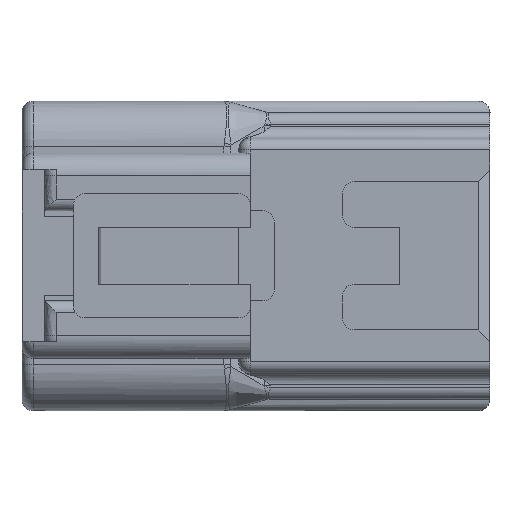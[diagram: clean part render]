
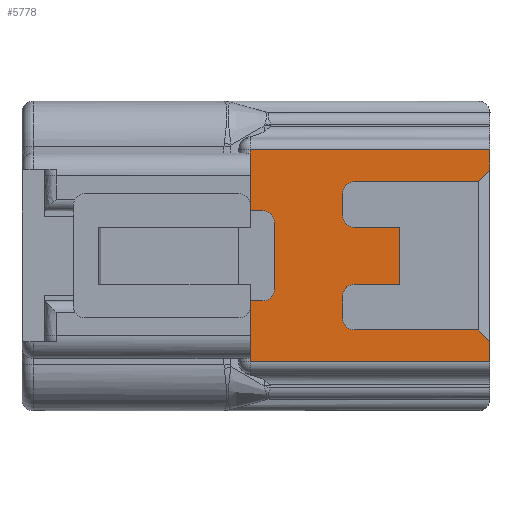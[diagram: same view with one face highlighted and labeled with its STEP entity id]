
A CAD part, top view. The second image highlights one B-rep face of the part: STEP entity #5778.
In plain terms, the highlighted planar face has unit normal (0, 0, 1).
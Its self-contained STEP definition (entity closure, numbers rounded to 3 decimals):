
#4289=CARTESIAN_POINT('Vertex',(22.,15.5,7.75)) ;
#4292=CARTESIAN_POINT('Line Origine',(21.5,15.,7.75)) ;
#4296=CARTESIAN_POINT('Vertex',(21.,14.5,7.75)) ;
#4320=CARTESIAN_POINT('Vertex',(21.,1.5,7.75)) ;
#4323=CARTESIAN_POINT('Line Origine',(21.5,1.,7.75)) ;
#4327=CARTESIAN_POINT('Vertex',(22.,0.5,7.75)) ;
#4427=CARTESIAN_POINT('Vertex',(14.1,10.5,7.75)) ;
#4430=CARTESIAN_POINT('Line Origine',(14.1,8.,7.75)) ;
#4434=CARTESIAN_POINT('Vertex',(14.1,5.5,7.75)) ;
#5035=CARTESIAN_POINT('Vertex',(2.1,11.95,7.75)) ;
#5049=CARTESIAN_POINT('Vertex',(3.1,10.95,7.75)) ;
#5052=CARTESIAN_POINT('Axis2P3D Location',(2.1,10.95,7.75)) ;
#5069=CARTESIAN_POINT('Line Origine',(3.1,8.,7.75)) ;
#5073=CARTESIAN_POINT('Vertex',(3.1,5.05,7.75)) ;
#5111=CARTESIAN_POINT('Vertex',(2.1,4.05,7.75)) ;
#5114=CARTESIAN_POINT('Axis2P3D Location',(2.1,5.05,7.75)) ;
#5131=CARTESIAN_POINT('Line Origine',(15.55,1.5,7.75)) ;
#5135=CARTESIAN_POINT('Vertex',(10.1,1.5,7.75)) ;
#5173=CARTESIAN_POINT('Vertex',(9.1,2.5,7.75)) ;
#5176=CARTESIAN_POINT('Axis2P3D Location',(10.1,2.5,7.75)) ;
#5197=CARTESIAN_POINT('Vertex',(10.1,5.5,7.75)) ;
#5214=CARTESIAN_POINT('Line Origine',(12.1,5.5,7.75)) ;
#5232=CARTESIAN_POINT('Line Origine',(9.1,3.5,7.75)) ;
#5236=CARTESIAN_POINT('Vertex',(9.1,4.5,7.75)) ;
#5263=CARTESIAN_POINT('Axis2P3D Location',(10.1,4.5,7.75)) ;
#5289=CARTESIAN_POINT('Vertex',(10.1,10.5,7.75)) ;
#5294=CARTESIAN_POINT('Line Origine',(12.1,10.5,7.75)) ;
#5328=CARTESIAN_POINT('Vertex',(9.1,11.5,7.75)) ;
#5333=CARTESIAN_POINT('Axis2P3D Location',(10.1,11.5,7.75)) ;
#5442=CARTESIAN_POINT('Line Origine',(15.55,14.5,7.75)) ;
#5446=CARTESIAN_POINT('Vertex',(10.1,14.5,7.75)) ;
#5461=CARTESIAN_POINT('Line Origine',(9.1,12.5,7.75)) ;
#5465=CARTESIAN_POINT('Vertex',(9.1,13.5,7.75)) ;
#5485=CARTESIAN_POINT('Axis2P3D Location',(10.1,13.5,7.75)) ;
#5572=CARTESIAN_POINT('Vertex',(1.,17.3,7.75)) ;
#5598=CARTESIAN_POINT('Line Origine',(10.999,17.3,7.75)) ;
#5602=CARTESIAN_POINT('Vertex',(22.,17.3,7.75)) ;
#5672=CARTESIAN_POINT('Axis2P3D Location',(22.,-2.3,7.75)) ;
#5677=CARTESIAN_POINT('Line Origine',(11.5,-1.3,7.75)) ;
#5681=CARTESIAN_POINT('Vertex',(1.,-1.3,7.75)) ;
#5683=CARTESIAN_POINT('Vertex',(22.,-1.3,7.75)) ;
#5686=CARTESIAN_POINT('Line Origine',(22.,-0.4,7.75)) ;
#5691=CARTESIAN_POINT('Line Origine',(22.,16.4,7.75)) ;
#5696=CARTESIAN_POINT('Line Origine',(1.,17.15,7.75)) ;
#5700=CARTESIAN_POINT('Vertex',(1.,17.,7.75)) ;
#5703=CARTESIAN_POINT('Line Origine',(1.,16.98,7.75)) ;
#5707=CARTESIAN_POINT('Vertex',(1.,16.96,7.75)) ;
#5710=CARTESIAN_POINT('Line Origine',(1.,14.455,7.75)) ;
#5714=CARTESIAN_POINT('Vertex',(1.,11.95,7.75)) ;
#5717=CARTESIAN_POINT('Line Origine',(1.55,11.95,7.75)) ;
#5722=CARTESIAN_POINT('Line Origine',(1.55,4.05,7.75)) ;
#5726=CARTESIAN_POINT('Vertex',(1.,4.05,7.75)) ;
#5729=CARTESIAN_POINT('Line Origine',(1.,1.545,7.75)) ;
#5733=CARTESIAN_POINT('Vertex',(1.,-0.96,7.75)) ;
#5736=CARTESIAN_POINT('Line Origine',(1.,-0.98,7.75)) ;
#5740=CARTESIAN_POINT('Vertex',(1.,-1.,7.75)) ;
#5743=CARTESIAN_POINT('Line Origine',(1.,-1.15,7.75)) ;
#4293=DIRECTION('Vector Direction',(-0.707,-0.707,0.)) ;
#4324=DIRECTION('Vector Direction',(0.707,-0.707,0.)) ;
#4431=DIRECTION('Vector Direction',(0.,1.,0.)) ;
#5053=DIRECTION('Axis2P3D Direction',(0.,0.,-1.)) ;
#5070=DIRECTION('Vector Direction',(0.,1.,0.)) ;
#5115=DIRECTION('Axis2P3D Direction',(0.,0.,-1.)) ;
#5132=DIRECTION('Vector Direction',(1.,0.,0.)) ;
#5177=DIRECTION('Axis2P3D Direction',(0.,0.,-1.)) ;
#5215=DIRECTION('Vector Direction',(1.,0.,0.)) ;
#5233=DIRECTION('Vector Direction',(0.,-1.,0.)) ;
#5264=DIRECTION('Axis2P3D Direction',(0.,-0.,1.)) ;
#5295=DIRECTION('Vector Direction',(1.,0.,0.)) ;
#5334=DIRECTION('Axis2P3D Direction',(0.,0.,1.)) ;
#5443=DIRECTION('Vector Direction',(-1.,0.,0.)) ;
#5462=DIRECTION('Vector Direction',(0.,-1.,0.)) ;
#5486=DIRECTION('Axis2P3D Direction',(0.,0.,-1.)) ;
#5599=DIRECTION('Vector Direction',(1.,0.,0.)) ;
#5673=DIRECTION('Axis2P3D Direction',(0.,0.,-1.)) ;
#5674=DIRECTION('Axis2P3D XDirection',(0.,1.,0.)) ;
#5678=DIRECTION('Vector Direction',(1.,0.,0.)) ;
#5687=DIRECTION('Vector Direction',(0.,1.,0.)) ;
#5692=DIRECTION('Vector Direction',(0.,1.,0.)) ;
#5697=DIRECTION('Vector Direction',(0.,1.,0.)) ;
#5704=DIRECTION('Vector Direction',(0.,-1.,0.)) ;
#5711=DIRECTION('Vector Direction',(0.,-1.,0.)) ;
#5718=DIRECTION('Vector Direction',(1.,0.,0.)) ;
#5723=DIRECTION('Vector Direction',(-1.,0.,0.)) ;
#5730=DIRECTION('Vector Direction',(0.,-1.,0.)) ;
#5737=DIRECTION('Vector Direction',(0.,-1.,0.)) ;
#5744=DIRECTION('Vector Direction',(0.,1.,0.)) ;
#5054=AXIS2_PLACEMENT_3D('Circle Axis2P3D',#5052,#5053,$) ;
#5116=AXIS2_PLACEMENT_3D('Circle Axis2P3D',#5114,#5115,$) ;
#5178=AXIS2_PLACEMENT_3D('Circle Axis2P3D',#5176,#5177,$) ;
#5265=AXIS2_PLACEMENT_3D('Circle Axis2P3D',#5263,#5264,$) ;
#5335=AXIS2_PLACEMENT_3D('Circle Axis2P3D',#5333,#5334,$) ;
#5487=AXIS2_PLACEMENT_3D('Circle Axis2P3D',#5485,#5486,$) ;
#5675=AXIS2_PLACEMENT_3D('Plane Axis2P3D',#5672,#5673,#5674) ;
#5749=ORIENTED_EDGE('',*,*,#5685,.T.) ;
#5750=ORIENTED_EDGE('',*,*,#5690,.T.) ;
#5751=ORIENTED_EDGE('',*,*,#4329,.F.) ;
#5752=ORIENTED_EDGE('',*,*,#5137,.F.) ;
#5753=ORIENTED_EDGE('',*,*,#5180,.T.) ;
#5754=ORIENTED_EDGE('',*,*,#5238,.F.) ;
#5755=ORIENTED_EDGE('',*,*,#5267,.T.) ;
#5756=ORIENTED_EDGE('',*,*,#5218,.T.) ;
#5757=ORIENTED_EDGE('',*,*,#4436,.T.) ;
#5758=ORIENTED_EDGE('',*,*,#5298,.F.) ;
#5759=ORIENTED_EDGE('',*,*,#5337,.T.) ;
#5760=ORIENTED_EDGE('',*,*,#5467,.F.) ;
#5761=ORIENTED_EDGE('',*,*,#5489,.T.) ;
#5762=ORIENTED_EDGE('',*,*,#5448,.F.) ;
#5763=ORIENTED_EDGE('',*,*,#4298,.F.) ;
#5764=ORIENTED_EDGE('',*,*,#5695,.T.) ;
#5765=ORIENTED_EDGE('',*,*,#5604,.F.) ;
#5766=ORIENTED_EDGE('',*,*,#5702,.F.) ;
#5767=ORIENTED_EDGE('',*,*,#5709,.F.) ;
#5768=ORIENTED_EDGE('',*,*,#5716,.T.) ;
#5769=ORIENTED_EDGE('',*,*,#5721,.F.) ;
#5770=ORIENTED_EDGE('',*,*,#5056,.T.) ;
#5771=ORIENTED_EDGE('',*,*,#5075,.F.) ;
#5772=ORIENTED_EDGE('',*,*,#5118,.T.) ;
#5773=ORIENTED_EDGE('',*,*,#5728,.F.) ;
#5774=ORIENTED_EDGE('',*,*,#5735,.T.) ;
#5775=ORIENTED_EDGE('',*,*,#5742,.F.) ;
#5776=ORIENTED_EDGE('',*,*,#5747,.F.) ;
#4294=VECTOR('Line Direction',#4293,1.) ;
#4325=VECTOR('Line Direction',#4324,1.) ;
#4432=VECTOR('Line Direction',#4431,1.) ;
#5071=VECTOR('Line Direction',#5070,1.) ;
#5133=VECTOR('Line Direction',#5132,1.) ;
#5216=VECTOR('Line Direction',#5215,1.) ;
#5234=VECTOR('Line Direction',#5233,1.) ;
#5296=VECTOR('Line Direction',#5295,1.) ;
#5444=VECTOR('Line Direction',#5443,1.) ;
#5463=VECTOR('Line Direction',#5462,1.) ;
#5600=VECTOR('Line Direction',#5599,1.) ;
#5679=VECTOR('Line Direction',#5678,1.) ;
#5688=VECTOR('Line Direction',#5687,1.) ;
#5693=VECTOR('Line Direction',#5692,1.) ;
#5698=VECTOR('Line Direction',#5697,1.) ;
#5705=VECTOR('Line Direction',#5704,1.) ;
#5712=VECTOR('Line Direction',#5711,1.) ;
#5719=VECTOR('Line Direction',#5718,1.) ;
#5724=VECTOR('Line Direction',#5723,1.) ;
#5731=VECTOR('Line Direction',#5730,1.) ;
#5738=VECTOR('Line Direction',#5737,1.) ;
#5745=VECTOR('Line Direction',#5744,1.) ;
#5778=ADVANCED_FACE('\X2\FF8AFF9FFF70FF82\X0\ \X2\FF8EFF9EFF83FF9EFF68FF70\X0\',(#5777),#5676,.F.) ;
#5055=CIRCLE('generated circle',#5054,1.) ;
#5117=CIRCLE('generated circle',#5116,1.) ;
#5179=CIRCLE('generated circle',#5178,1.) ;
#5266=CIRCLE('generated circle',#5265,1.) ;
#5336=CIRCLE('generated circle',#5335,1.) ;
#5488=CIRCLE('generated circle',#5487,1.) ;
#4298=EDGE_CURVE('',#4290,#4297,#4295,.T.) ;
#4329=EDGE_CURVE('',#4321,#4328,#4326,.T.) ;
#4436=EDGE_CURVE('',#4435,#4428,#4433,.T.) ;
#5056=EDGE_CURVE('',#5036,#5050,#5055,.T.) ;
#5075=EDGE_CURVE('',#5074,#5050,#5072,.T.) ;
#5118=EDGE_CURVE('',#5074,#5112,#5117,.T.) ;
#5137=EDGE_CURVE('',#5136,#4321,#5134,.T.) ;
#5180=EDGE_CURVE('',#5136,#5174,#5179,.T.) ;
#5218=EDGE_CURVE('',#5198,#4435,#5217,.T.) ;
#5238=EDGE_CURVE('',#5237,#5174,#5235,.T.) ;
#5267=EDGE_CURVE('',#5237,#5198,#5266,.F.) ;
#5298=EDGE_CURVE('',#5290,#4428,#5297,.T.) ;
#5337=EDGE_CURVE('',#5290,#5329,#5336,.F.) ;
#5448=EDGE_CURVE('',#4297,#5447,#5445,.T.) ;
#5467=EDGE_CURVE('',#5466,#5329,#5464,.T.) ;
#5489=EDGE_CURVE('',#5466,#5447,#5488,.T.) ;
#5604=EDGE_CURVE('',#5573,#5603,#5601,.T.) ;
#5685=EDGE_CURVE('',#5682,#5684,#5680,.T.) ;
#5690=EDGE_CURVE('',#5684,#4328,#5689,.T.) ;
#5695=EDGE_CURVE('',#4290,#5603,#5694,.T.) ;
#5702=EDGE_CURVE('',#5701,#5573,#5699,.T.) ;
#5709=EDGE_CURVE('',#5708,#5701,#5706,.F.) ;
#5716=EDGE_CURVE('',#5708,#5715,#5713,.T.) ;
#5721=EDGE_CURVE('',#5036,#5715,#5720,.F.) ;
#5728=EDGE_CURVE('',#5727,#5112,#5725,.F.) ;
#5735=EDGE_CURVE('',#5727,#5734,#5732,.T.) ;
#5742=EDGE_CURVE('',#5741,#5734,#5739,.F.) ;
#5747=EDGE_CURVE('',#5682,#5741,#5746,.T.) ;
#5748=EDGE_LOOP('',(#5749,#5750,#5751,#5752,#5753,#5754,#5755,#5756,#5757,#5758,#5759,#5760,#5761,#5762,#5763,#5764,#5765,#5766,#5767,#5768,#5769,#5770,#5771,#5772,#5773,#5774,#5775,#5776)) ;
#5777=FACE_OUTER_BOUND('',#5748,.T.) ;
#4295=LINE('Line',#4292,#4294) ;
#4326=LINE('Line',#4323,#4325) ;
#4433=LINE('Line',#4430,#4432) ;
#5072=LINE('Line',#5069,#5071) ;
#5134=LINE('Line',#5131,#5133) ;
#5217=LINE('Line',#5214,#5216) ;
#5235=LINE('Line',#5232,#5234) ;
#5297=LINE('Line',#5294,#5296) ;
#5445=LINE('Line',#5442,#5444) ;
#5464=LINE('Line',#5461,#5463) ;
#5601=LINE('Line',#5598,#5600) ;
#5680=LINE('Line',#5677,#5679) ;
#5689=LINE('Line',#5686,#5688) ;
#5694=LINE('Line',#5691,#5693) ;
#5699=LINE('Line',#5696,#5698) ;
#5706=LINE('Line',#5703,#5705) ;
#5713=LINE('Line',#5710,#5712) ;
#5720=LINE('Line',#5717,#5719) ;
#5725=LINE('Line',#5722,#5724) ;
#5732=LINE('Line',#5729,#5731) ;
#5739=LINE('Line',#5736,#5738) ;
#5746=LINE('Line',#5743,#5745) ;
#5676=PLANE('',#5675) ;
#4290=VERTEX_POINT('',#4289) ;
#4297=VERTEX_POINT('',#4296) ;
#4321=VERTEX_POINT('',#4320) ;
#4328=VERTEX_POINT('',#4327) ;
#4428=VERTEX_POINT('',#4427) ;
#4435=VERTEX_POINT('',#4434) ;
#5036=VERTEX_POINT('',#5035) ;
#5050=VERTEX_POINT('',#5049) ;
#5074=VERTEX_POINT('',#5073) ;
#5112=VERTEX_POINT('',#5111) ;
#5136=VERTEX_POINT('',#5135) ;
#5174=VERTEX_POINT('',#5173) ;
#5198=VERTEX_POINT('',#5197) ;
#5237=VERTEX_POINT('',#5236) ;
#5290=VERTEX_POINT('',#5289) ;
#5329=VERTEX_POINT('',#5328) ;
#5447=VERTEX_POINT('',#5446) ;
#5466=VERTEX_POINT('',#5465) ;
#5573=VERTEX_POINT('',#5572) ;
#5603=VERTEX_POINT('',#5602) ;
#5682=VERTEX_POINT('',#5681) ;
#5684=VERTEX_POINT('',#5683) ;
#5701=VERTEX_POINT('',#5700) ;
#5708=VERTEX_POINT('',#5707) ;
#5715=VERTEX_POINT('',#5714) ;
#5727=VERTEX_POINT('',#5726) ;
#5734=VERTEX_POINT('',#5733) ;
#5741=VERTEX_POINT('',#5740) ;
